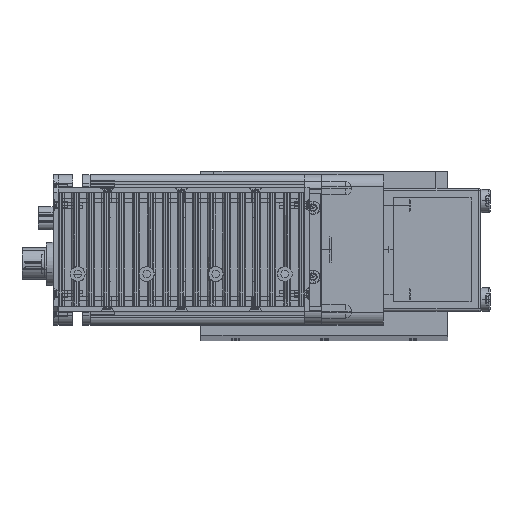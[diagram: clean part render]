
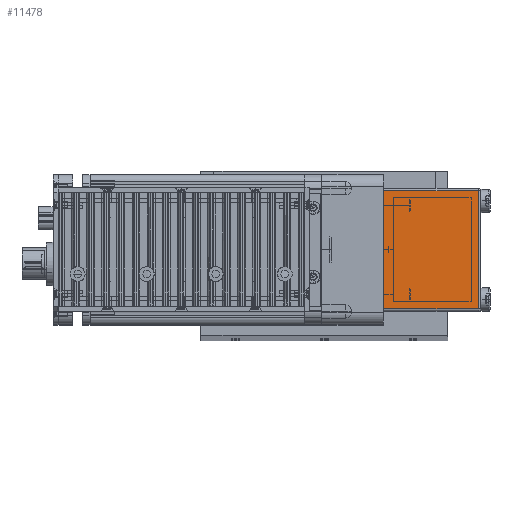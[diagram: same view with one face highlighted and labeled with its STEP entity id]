
A CAD part, top view. The second image highlights one B-rep face of the part: STEP entity #11478.
In plain terms, the highlighted planar face has unit normal (0, 0, 1) as drawn and (1, 0, 0) by its records, which use the part's own axes.
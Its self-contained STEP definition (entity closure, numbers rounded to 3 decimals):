
#11282 = VERTEX_POINT ( 'NONE', #40943 ) ;
#11310 = VERTEX_POINT ( 'NONE', #40976 ) ;
#11341 = VERTEX_POINT ( 'NONE', #41043 ) ;
#11345 = EDGE_CURVE ( 'NONE', #11341, #11359, #41099, .T. ) ;
#11358 = EDGE_CURVE ( 'NONE', #11282, #11310, #41118, .T. ) ;
#11359 = VERTEX_POINT ( 'NONE', #41121 ) ;
#11402 = EDGE_CURVE ( 'NONE', #11341, #11310, #41238, .T. ) ;
#11403 = ORIENTED_EDGE ( 'NONE', *, *, #11345, .F. ) ;
#11404 = ORIENTED_EDGE ( 'NONE', *, *, #11358, .F. ) ;
#11406 = EDGE_LOOP ( 'NONE', ( #11403, #11480, #11404, #11482 ) ) ;
#11478 = ADVANCED_FACE ( 'NONE', ( #41335 ), #41336, .F. ) ;
#11479 = EDGE_CURVE ( 'NONE', #11359, #11282, #41376, .T. ) ;
#11480 = ORIENTED_EDGE ( 'NONE', *, *, #11402, .T. ) ;
#11482 = ORIENTED_EDGE ( 'NONE', *, *, #11479, .F. ) ;
#40943 = CARTESIAN_POINT ( 'NONE',  ( 62., 24., 38.5 ) ) ;
#40976 = CARTESIAN_POINT ( 'NONE',  ( 62., 24., 0. ) ) ;
#41043 = CARTESIAN_POINT ( 'NONE',  ( 62., -24., 0. ) ) ;
#41089 = DIRECTION ( 'NONE',  ( 0., 0., 1. ) ) ;
#41090 = VECTOR ( 'NONE', #41089, 1000. ) ;
#41098 = CARTESIAN_POINT ( 'NONE',  ( 62., -24., 39.5 ) ) ;
#41099 = LINE ( 'NONE', #41098, #41090 ) ;
#41114 = DIRECTION ( 'NONE',  ( 0., 0., -1. ) ) ;
#41116 = VECTOR ( 'NONE', #41114, 1000. ) ;
#41117 = CARTESIAN_POINT ( 'NONE',  ( 62., 24., 39.5 ) ) ;
#41118 = LINE ( 'NONE', #41117, #41116 ) ;
#41121 = CARTESIAN_POINT ( 'NONE',  ( 62., -24., 38.5 ) ) ;
#41235 = DIRECTION ( 'NONE',  ( 0., 1., 0. ) ) ;
#41236 = VECTOR ( 'NONE', #41235, 1000. ) ;
#41237 = CARTESIAN_POINT ( 'NONE',  ( 62., -25., 0. ) ) ;
#41238 = LINE ( 'NONE', #41237, #41236 ) ;
#41328 = CARTESIAN_POINT ( 'NONE',  ( 62., 25., 39.5 ) ) ;
#41335 = FACE_OUTER_BOUND ( 'NONE', #11406, .T. ) ;
#41336 = PLANE ( 'NONE',  #41339 ) ;
#41339 = AXIS2_PLACEMENT_3D ( 'NONE', #41328, #41372, #41371 ) ;
#41369 = DIRECTION ( 'NONE',  ( 0., 1., 0. ) ) ;
#41370 = VECTOR ( 'NONE', #41369, 1000. ) ;
#41371 = DIRECTION ( 'NONE',  ( 0., -1., 0. ) ) ;
#41372 = DIRECTION ( 'NONE',  ( -1., 0., 0. ) ) ;
#41375 = CARTESIAN_POINT ( 'NONE',  ( 62., -25., 38.5 ) ) ;
#41376 = LINE ( 'NONE', #41375, #41370 ) ;
